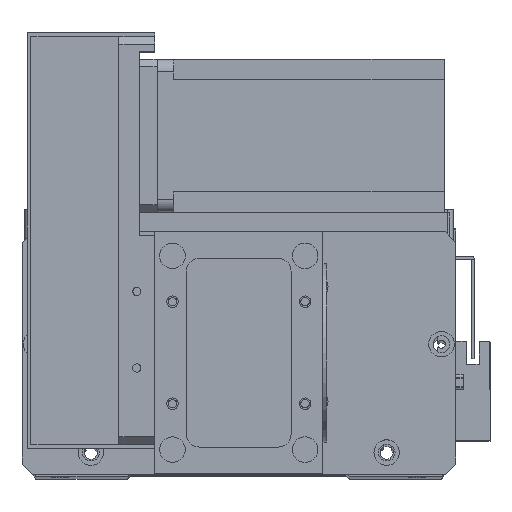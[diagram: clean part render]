
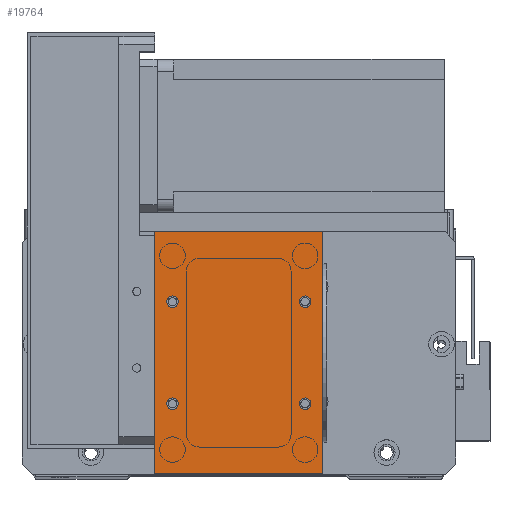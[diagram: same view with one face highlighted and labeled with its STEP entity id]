
A CAD part, top view. The second image highlights one B-rep face of the part: STEP entity #19764.
In plain terms, the highlighted planar face has unit normal (0, 0, 1).
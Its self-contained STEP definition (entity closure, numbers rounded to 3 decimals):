
#192 = DIRECTION ( 'NONE',  ( 0., 0., 1. ) ) ;
#765 = FACE_BOUND ( 'NONE', #29425, .T. ) ;
#795 = EDGE_CURVE ( 'NONE', #8051, #12219, #26282, .T. ) ;
#1246 = AXIS2_PLACEMENT_3D ( 'NONE', #23146, #8865, #25498 ) ;
#1458 = EDGE_CURVE ( 'NONE', #7433, #8051, #4285, .T. ) ;
#1887 = EDGE_CURVE ( 'NONE', #20427, #23051, #23271, .T. ) ;
#1902 = EDGE_CURVE ( 'NONE', #20173, #24638, #12108, .T. ) ;
#2575 = CARTESIAN_POINT ( 'NONE',  ( 56.75, 27.5, 2. ) ) ;
#2665 = EDGE_CURVE ( 'NONE', #23051, #20427, #22864, .T. ) ;
#2898 = CARTESIAN_POINT ( 'NONE',  ( 61.25, 27.5, 2. ) ) ;
#3322 = CARTESIAN_POINT ( 'NONE',  ( 59., 67.5, 2. ) ) ;
#3813 = EDGE_CURVE ( 'NONE', #18182, #30131, #19830, .T. ) ;
#4267 = CARTESIAN_POINT ( 'NONE',  ( 4.75, 27.5, 2. ) ) ;
#4285 = LINE ( 'NONE', #26458, #16205 ) ;
#4483 = DIRECTION ( 'NONE',  ( 1., 0., 0. ) ) ;
#4797 = CARTESIAN_POINT ( 'NONE',  ( 7., 27.5, 2. ) ) ;
#4808 = ORIENTED_EDGE ( 'NONE', *, *, #11036, .T. ) ;
#4915 = CARTESIAN_POINT ( 'NONE',  ( 59., 27.5, 2. ) ) ;
#5314 = VERTEX_POINT ( 'NONE', #23898 ) ;
#5370 = LINE ( 'NONE', #18775, #29200 ) ;
#5693 = VECTOR ( 'NONE', #7166, 1000. ) ;
#5729 = DIRECTION ( 'NONE',  ( 1., 0., 0. ) ) ;
#5844 = CIRCLE ( 'NONE', #1246, 2.25 ) ;
#6369 = FACE_BOUND ( 'NONE', #16299, .T. ) ;
#6939 = AXIS2_PLACEMENT_3D ( 'NONE', #3322, #20007, #5729 ) ;
#6962 = VERTEX_POINT ( 'NONE', #23874 ) ;
#7166 = DIRECTION ( 'NONE',  ( 0., -1., 0. ) ) ;
#7202 = DIRECTION ( 'NONE',  ( 1., 0., 0. ) ) ;
#7229 = DIRECTION ( 'NONE',  ( 0., 0., 1. ) ) ;
#7318 = DIRECTION ( 'NONE',  ( 1., 0., 0. ) ) ;
#7329 = AXIS2_PLACEMENT_3D ( 'NONE', #25375, #11140, #27764 ) ;
#7433 = VERTEX_POINT ( 'NONE', #25863 ) ;
#7553 = PLANE ( 'NONE',  #11883 ) ;
#7563 = ORIENTED_EDGE ( 'NONE', *, *, #11625, .F. ) ;
#8051 = VERTEX_POINT ( 'NONE', #11707 ) ;
#8150 = DIRECTION ( 'NONE',  ( -1., 0., 0. ) ) ;
#8865 = DIRECTION ( 'NONE',  ( 0., 0., 1. ) ) ;
#9525 = ORIENTED_EDGE ( 'NONE', *, *, #795, .T. ) ;
#9824 = EDGE_CURVE ( 'NONE', #30131, #18182, #10208, .T. ) ;
#9874 = ORIENTED_EDGE ( 'NONE', *, *, #1902, .F. ) ;
#10208 = CIRCLE ( 'NONE', #6939, 2.25 ) ;
#10335 = EDGE_CURVE ( 'NONE', #6962, #7433, #5370, .T. ) ;
#11036 = EDGE_CURVE ( 'NONE', #12219, #6962, #24669, .T. ) ;
#11140 = DIRECTION ( 'NONE',  ( 0., 0., 1. ) ) ;
#11466 = EDGE_LOOP ( 'NONE', ( #12581, #9874 ) ) ;
#11625 = EDGE_CURVE ( 'NONE', #5314, #28517, #13273, .T. ) ;
#11707 = CARTESIAN_POINT ( 'NONE',  ( 66., 95., 2. ) ) ;
#11883 = AXIS2_PLACEMENT_3D ( 'NONE', #26565, #12344, #28974 ) ;
#11978 = CIRCLE ( 'NONE', #13598, 2.25 ) ;
#12108 = CIRCLE ( 'NONE', #14682, 2.25 ) ;
#12219 = VERTEX_POINT ( 'NONE', #26430 ) ;
#12344 = DIRECTION ( 'NONE',  ( 0., 0., -1. ) ) ;
#12581 = ORIENTED_EDGE ( 'NONE', *, *, #14327, .F. ) ;
#12700 = DIRECTION ( 'NONE',  ( 0., 0., 1. ) ) ;
#12882 = EDGE_LOOP ( 'NONE', ( #4808, #29287, #19472, #9525 ) ) ;
#13273 = CIRCLE ( 'NONE', #30699, 2.25 ) ;
#13598 = AXIS2_PLACEMENT_3D ( 'NONE', #4797, #21469, #7202 ) ;
#14327 = EDGE_CURVE ( 'NONE', #24638, #20173, #11978, .T. ) ;
#14509 = CARTESIAN_POINT ( 'NONE',  ( 7., 27.5, 2. ) ) ;
#14682 = AXIS2_PLACEMENT_3D ( 'NONE', #14509, #192, #16882 ) ;
#14838 = CARTESIAN_POINT ( 'NONE',  ( 9.25, 27.5, 2. ) ) ;
#16205 = VECTOR ( 'NONE', #20143, 1000. ) ;
#16252 = AXIS2_PLACEMENT_3D ( 'NONE', #4915, #21600, #7318 ) ;
#16299 = EDGE_LOOP ( 'NONE', ( #23630, #17438 ) ) ;
#16882 = DIRECTION ( 'NONE',  ( 1., 0., 0. ) ) ;
#17089 = EDGE_CURVE ( 'NONE', #28517, #5314, #5844, .T. ) ;
#17148 = CARTESIAN_POINT ( 'NONE',  ( 61.25, 67.5, 2. ) ) ;
#17438 = ORIENTED_EDGE ( 'NONE', *, *, #9824, .F. ) ;
#17581 = ORIENTED_EDGE ( 'NONE', *, *, #17089, .F. ) ;
#17679 = AXIS2_PLACEMENT_3D ( 'NONE', #26923, #12700, #29330 ) ;
#18035 = CARTESIAN_POINT ( 'NONE',  ( 0., 95., 2. ) ) ;
#18166 = ORIENTED_EDGE ( 'NONE', *, *, #1887, .F. ) ;
#18182 = VERTEX_POINT ( 'NONE', #17148 ) ;
#18296 = FACE_OUTER_BOUND ( 'NONE', #12882, .T. ) ;
#18775 = CARTESIAN_POINT ( 'NONE',  ( 0., 0., 2. ) ) ;
#18988 = ORIENTED_EDGE ( 'NONE', *, *, #2665, .F. ) ;
#19052 = FACE_BOUND ( 'NONE', #29478, .T. ) ;
#19472 = ORIENTED_EDGE ( 'NONE', *, *, #1458, .T. ) ;
#19764 = ADVANCED_FACE ( 'NONE', ( #19052, #6369, #765, #24599, #18296 ), #7553, .F. ) ;
#19830 = CIRCLE ( 'NONE', #7329, 2.25 ) ;
#20007 = DIRECTION ( 'NONE',  ( 0., 0., 1. ) ) ;
#20143 = DIRECTION ( 'NONE',  ( 0., 1., 0. ) ) ;
#20173 = VERTEX_POINT ( 'NONE', #4267 ) ;
#20427 = VERTEX_POINT ( 'NONE', #2898 ) ;
#20757 = VECTOR ( 'NONE', #8150, 1000. ) ;
#21469 = DIRECTION ( 'NONE',  ( 0., 0., 1. ) ) ;
#21501 = CARTESIAN_POINT ( 'NONE',  ( 7., 67.5, 2. ) ) ;
#21600 = DIRECTION ( 'NONE',  ( 0., 0., 1. ) ) ;
#22864 = CIRCLE ( 'NONE', #17679, 2.25 ) ;
#23051 = VERTEX_POINT ( 'NONE', #2575 ) ;
#23146 = CARTESIAN_POINT ( 'NONE',  ( 7., 67.5, 2. ) ) ;
#23271 = CIRCLE ( 'NONE', #16252, 2.25 ) ;
#23630 = ORIENTED_EDGE ( 'NONE', *, *, #3813, .F. ) ;
#23872 = DIRECTION ( 'NONE',  ( 1., 0., 0. ) ) ;
#23874 = CARTESIAN_POINT ( 'NONE',  ( 0., 0., 2. ) ) ;
#23898 = CARTESIAN_POINT ( 'NONE',  ( 9.25, 67.5, 2. ) ) ;
#23922 = CARTESIAN_POINT ( 'NONE',  ( 4.75, 67.5, 2. ) ) ;
#24599 = FACE_BOUND ( 'NONE', #11466, .T. ) ;
#24638 = VERTEX_POINT ( 'NONE', #14838 ) ;
#24669 = LINE ( 'NONE', #28596, #5693 ) ;
#25375 = CARTESIAN_POINT ( 'NONE',  ( 59., 67.5, 2. ) ) ;
#25498 = DIRECTION ( 'NONE',  ( 1., 0., 0. ) ) ;
#25863 = CARTESIAN_POINT ( 'NONE',  ( 66., 0., 2. ) ) ;
#26282 = LINE ( 'NONE', #18035, #20757 ) ;
#26430 = CARTESIAN_POINT ( 'NONE',  ( 0., 95., 2. ) ) ;
#26458 = CARTESIAN_POINT ( 'NONE',  ( 66., 0., 2. ) ) ;
#26565 = CARTESIAN_POINT ( 'NONE',  ( 0., 0., 2. ) ) ;
#26923 = CARTESIAN_POINT ( 'NONE',  ( 59., 27.5, 2. ) ) ;
#27764 = DIRECTION ( 'NONE',  ( 1., 0., 0. ) ) ;
#28416 = CARTESIAN_POINT ( 'NONE',  ( 56.75, 67.5, 2. ) ) ;
#28517 = VERTEX_POINT ( 'NONE', #23922 ) ;
#28596 = CARTESIAN_POINT ( 'NONE',  ( 0., 0., 2. ) ) ;
#28974 = DIRECTION ( 'NONE',  ( -1., 0., 0. ) ) ;
#29200 = VECTOR ( 'NONE', #4483, 1000. ) ;
#29287 = ORIENTED_EDGE ( 'NONE', *, *, #10335, .T. ) ;
#29330 = DIRECTION ( 'NONE',  ( 1., 0., 0. ) ) ;
#29425 = EDGE_LOOP ( 'NONE', ( #18166, #18988 ) ) ;
#29478 = EDGE_LOOP ( 'NONE', ( #7563, #17581 ) ) ;
#30131 = VERTEX_POINT ( 'NONE', #28416 ) ;
#30699 = AXIS2_PLACEMENT_3D ( 'NONE', #21501, #7229, #23872 ) ;
